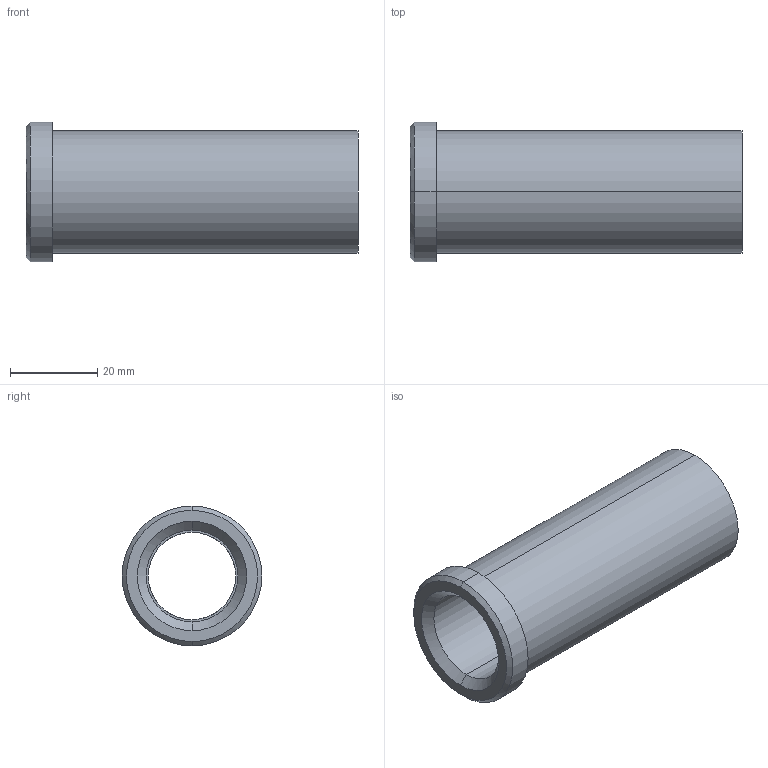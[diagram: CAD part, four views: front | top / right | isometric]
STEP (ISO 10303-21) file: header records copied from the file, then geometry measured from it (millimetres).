
FILE_DESCRIPTION(('CATIA V5 STEP Exchange'),'2;1');
FILE_NAME('C:\Users\Utente\Desktop\IO LAVORO\3D X SITO CF\X SITO\PLASTICA\353\353-20X76.stp','2021-05-08T08:54:54+00:00',('none'),('none'),'CATIA Version 5 Release 20 GA (IN-10)','CATIA V5 STEP AP203','none');
FILE_SCHEMA(('CONFIG_CONTROL_DESIGN'));
Length unit declared in the file: millimetre
Products named in the file (1): 353-20X76
Bounding box: 76 x 32 x 32 mm (x, y, z)
Volume: 22671.9 mm3; surface area: 12457.5 mm2
Topology: 1 solids, 1 shells, 18 faces, 58 edges, 44 vertices
Faces by surface type: cylinder 8, plane 4, cone 4, torus 2
Entity records: 840 total; most frequent: CARTESIAN_POINT 289, ORIENTED_EDGE 116, DIRECTION 82, EDGE_CURVE 58, AXIS2_PLACEMENT_3D 53, VERTEX_POINT 44, CIRCLE 34, EDGE_LOOP 22
